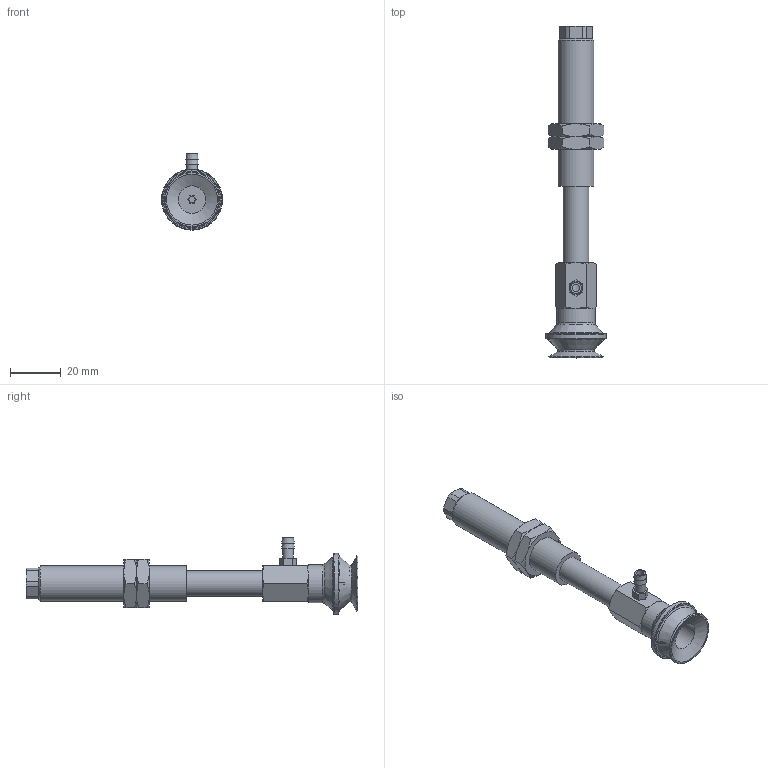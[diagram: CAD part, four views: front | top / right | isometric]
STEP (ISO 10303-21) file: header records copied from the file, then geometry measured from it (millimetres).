
FILE_DESCRIPTION(('STEP AP203'),'1');
FILE_NAME('-T.stp','2025-04-02T00:37:39',(' '),(' '),'Spatial InterOp 3D',' ',' ');
FILE_SCHEMA(('CONFIG_CONTROL_DESIGN'));
Length unit declared in the file: millimetre
Products named in the file (8): BNABPBYS-20-30-※-T; Adapter20-T-NAPB; CONNECTOR-20-30-PB; Nut-20-S-PB; NAPBTS-20-30--F; NAPBTS-20-30--M; BPBG-20-※; T
Assembly tree (8 placements, depth 2):
  BNABPBYS-20-30-※-T
    Adapter20-T-NAPB
    CONNECTOR-20-30-PB
    Nut-20-S-PB  x2
    NAPBTS-20-30--F
    NAPBTS-20-30--M
    BPBG-20-※
    T
Bounding box: 24 x 130.5 x 30 mm (x, y, z)
Volume: 19549.9 mm3; surface area: 15095.7 mm2
Topology: 8 solids, 8 shells, 173 faces, 375 edges, 231 vertices
Faces by surface type: plane 79, cone 59, cylinder 26, torus 9
Full cylindrical faces by diameter (mm): 2.5 x1, 3 x2, 4.134 x3, 4.3 x1, 4.6 x1, 5 x3, 10 x2, 10.8 x1, 11 x1, 12.917 x2, 14 x1, 15 x1, 24 x1
Entity records: 4466 total; most frequent: CARTESIAN_POINT 993, DIRECTION 658, ORIENTED_EDGE 548, AXIS2_PLACEMENT_3D 277, EDGE_CURVE 274, EDGE_LOOP 220, VERTEX_POINT 194, FACE_OUTER_BOUND 176
